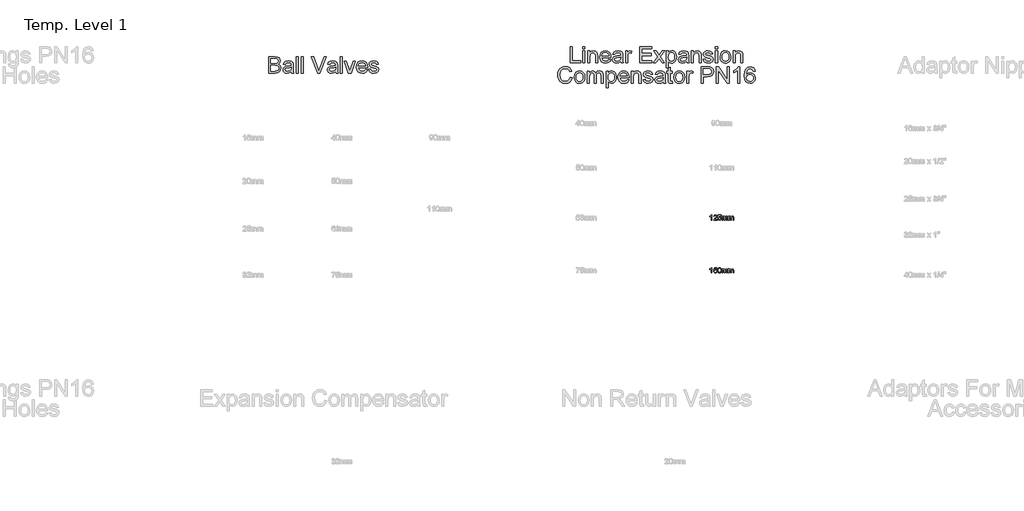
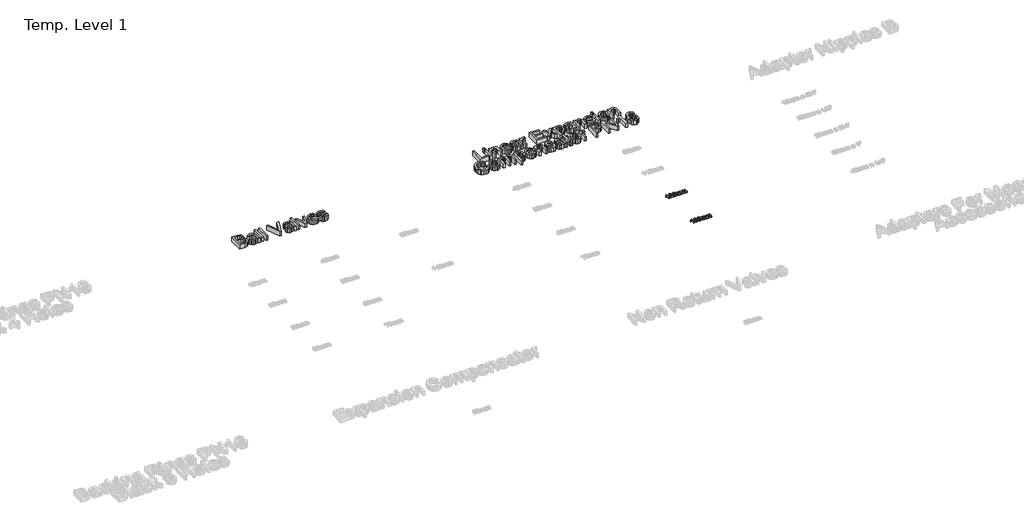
# One storey, part 57 of 62: 4 proxies.
"""IFC4 building model written with IfcOpenShell, lengths in millimetres."""

import ifcopenshell
import ifcopenshell.guid

model = None  # the IFC model being written
_history = None  # IfcOwnerHistory: only IFC2X3 demands one
_inside = {}  # id of a spatial element -> (the spatial element, [elements in it])
_under = {}  # id of a project, library or spatial element -> (it, [spatial elements below it])
_declared = {}  # id of a project -> (the project, [libraries it declares])
_typed = {}  # id of a type object -> (the type object, [elements of that type])
_made_of = {}  # id of a material, layer set ... -> (it, [elements and type objects made of it])


def new_model(schema):
    """Start an empty IFC model of exactly this schema.

    Asked for "IFC4X3", IfcOpenShell would pick the latest addendum, in which some entities
    have other attributes; the version numbers below select the first issue.
    IFC2X3 requires an IfcOwnerHistory on every rooted entity: one is made here for all.
    """
    global model, _history
    if schema == "IFC4X3":
        model = ifcopenshell.file(schema_version=(4, 3, 0, 0))
    else:
        model = ifcopenshell.file(schema=schema)
    _inside.clear()
    _under.clear()
    _declared.clear()
    _typed.clear()
    _made_of.clear()
    _history = None
    if model.schema == "IFC2X3":
        org = make("IfcOrganization", Name="unknown")
        user = make(
            "IfcPersonAndOrganization",
            ThePerson=make("IfcPerson", FamilyName="unknown"),
            TheOrganization=org,
        )
        app = make(
            "IfcApplication",
            ApplicationDeveloper=org,
            Version="unknown",
            ApplicationFullName="unknown",
            ApplicationIdentifier="unknown",
        )
        _history = make(
            "IfcOwnerHistory",
            OwningUser=user,
            OwningApplication=app,
            ChangeAction="ADDED",
            CreationDate=0,
        )
    return model


def make(cls, **values):
    """One entity of the class cls with the attributes given. An attribute that is None is left unset."""
    return model.create_entity(
        cls, **{name: value for name, value in values.items() if value is not None}
    )


def rooted(cls, **values):
    """An entity with a GlobalId (a new one), such as an element, a storey or a relation."""
    return make(cls, GlobalId=ifcopenshell.guid.new(), OwnerHistory=_history, **values)


def si_unit(unit_type, name, prefix=None):
    """IfcSIUnit, for example si_unit("LENGTHUNIT", "METRE", prefix="MILLI")."""
    return make("IfcSIUnit", UnitType=unit_type, Prefix=prefix, Name=name)


def assignment(units):
    """IfcUnitAssignment: the units of a project."""
    return None if units is None else make("IfcUnitAssignment", Units=units)


def point(xyz):
    """IfcCartesianPoint."""
    return None if xyz is None else make("IfcCartesianPoint", Coordinates=xyz)


def direction(xyz):
    """IfcDirection."""
    return None if xyz is None else make("IfcDirection", DirectionRatios=xyz)


def frame(location, z_axis=None, x_axis=None):
    """IfcAxis2Placement3D, a coordinate frame: its origin and axes. An axis left out is left unset."""
    return make(
        "IfcAxis2Placement3D",
        Location=point(location),
        Axis=direction(z_axis),
        RefDirection=direction(x_axis),
    )


def origin():
    """The frame at (0, 0, 0) with its axes left unset."""
    return frame((0.0, 0.0, 0.0))


def origin_with_axes():
    """The frame at (0, 0, 0) with the z axis (0, 0, 1) and the x axis (1, 0, 0) written out."""
    return frame((0.0, 0.0, 0.0), z_axis=(0.0, 0.0, 1.0), x_axis=(1.0, 0.0, 0.0))


def place(relative_to, where):
    """IfcLocalPlacement: puts the frame where relative to a parent placement (None: the world)."""
    return make(
        "IfcLocalPlacement", PlacementRelTo=relative_to, RelativePlacement=where
    )


def context(
    kind, dimensions, precision=None, world=None, true_north=None, identifier=None
):
    """IfcGeometricRepresentationContext, for example the 3D "Model" context."""
    return make(
        "IfcGeometricRepresentationContext",
        ContextIdentifier=identifier,
        ContextType=kind,
        CoordinateSpaceDimension=dimensions,
        Precision=precision,
        WorldCoordinateSystem=world,
        TrueNorth=true_north,
    )


def project(units=None, contexts=None):
    """IfcProject with its units and contexts."""
    return rooted(
        "IfcProject",
        Name="project",
        RepresentationContexts=contexts,
        UnitsInContext=assignment(units),
    )


def spatial(cls, under=None, at=None, **own):
    """A site, building, storey or space (cls), placed at a placement, below another one or the project."""
    s = rooted(cls, ObjectPlacement=at, **own)
    if under is not None:
        _under.setdefault(under.id(), (under, []))[1].append(s)
    return s


def polyline(points):
    """IfcPolyline through the points."""
    return make("IfcPolyline", Points=[point(p) for p in points])


def outline(outer, holes=None, kind="AREA"):
    """IfcArbitraryClosedProfileDef: a profile drawn as a closed curve; with holes, ...WithVoids."""
    if holes is None:
        return make("IfcArbitraryClosedProfileDef", ProfileType=kind, OuterCurve=outer)
    return make(
        "IfcArbitraryProfileDefWithVoids",
        ProfileType=kind,
        OuterCurve=outer,
        InnerCurves=holes,
    )


def extrude(swept, where, along, depth):
    """IfcExtrudedAreaSolid: the profile swept, set in the frame where, extruded along a direction by depth."""
    return make(
        "IfcExtrudedAreaSolid",
        SweptArea=swept,
        Position=where,
        ExtrudedDirection=direction(along),
        Depth=depth,
    )


def shape(context_of_items, identifier, shape_type, items):
    """IfcShapeRepresentation: the items that make up one representation, for example the "Body"."""
    return make(
        "IfcShapeRepresentation",
        ContextOfItems=context_of_items,
        RepresentationIdentifier=identifier,
        RepresentationType=shape_type,
        Items=items,
    )


def made_of(thing, what):
    """Note that an element or type object is made of a material, layer set ...; save() writes the relation."""
    if what is not None:
        _made_of.setdefault(what.id(), (what, []))[1].append(thing)
    return thing


def element(
    cls,
    number,
    at=None,
    inside=None,
    cuts=None,
    type_object=None,
    material=None,
    context=None,
    identifier="Body",
    shape_type=None,
    held_by="IfcProductDefinitionShape",
    body=None,
    shapes=None,
    **own,
):
    """One element of the class cls, such as IfcWall. Its Tag is "e" and its number.

    at: its placement. inside: the storey or other place that contains it. cuts: it is an
    opening in that element (IfcRelVoidsElement). A single representation is given by context,
    identifier, shape_type and body (its items); several are given by shapes. held_by: the class
    of the entity that holds the representations. save() writes the other relations.
    """
    e = rooted(cls, Tag="e%d" % number, ObjectPlacement=at, **own)
    if body is not None:
        shapes = [shape(context, identifier, shape_type, body)]
    if shapes is not None:
        e.Representation = make(held_by, Representations=shapes)
    if inside is not None:
        _inside.setdefault(inside.id(), (inside, []))[1].append(e)
    if cuts is not None:
        rooted(
            "IfcRelVoidsElement", RelatingBuildingElement=cuts, RelatedOpeningElement=e
        )
    if type_object is not None:
        _typed.setdefault(type_object.id(), (type_object, []))[1].append(e)
    return made_of(e, material)


def aggregate(whole, parts):
    """IfcRelAggregates: a whole, such as a stair, and the parts it consists of."""
    return rooted("IfcRelAggregates", RelatingObject=whole, RelatedObjects=parts)


def save(model, path):
    """Write the relations noted so far, then the file.

    IfcRelAggregates (storeys below a building ...), IfcRelContainedInSpatialStructure (elements
    in a storey), IfcRelDefinesByType, IfcRelAssociatesMaterial and IfcRelDeclares: one each for
    every whole, place, type object, material and project.
    """
    for whole, parts in _under.values():
        aggregate(whole, parts)
    for where, things in _inside.values():
        rooted(
            "IfcRelContainedInSpatialStructure",
            RelatedElements=things,
            RelatingStructure=where,
        )
    for kind, things in _typed.values():
        rooted("IfcRelDefinesByType", RelatedObjects=things, RelatingType=kind)
    for what, things in _made_of.values():
        rooted("IfcRelAssociatesMaterial", RelatedObjects=things, RelatingMaterial=what)
    for by, libraries in _declared.values():
        rooted("IfcRelDeclares", RelatingContext=by, RelatedDefinitions=libraries)
    model.write(path)


model = new_model("IFC4")

# Units and contexts
model_context = context("Model", 3, world=origin())
ifc_project = project(units=[si_unit("LENGTHUNIT", "METRE", prefix="MILLI")], contexts=[model_context])

# Site, building, storey
site = spatial("IfcSite", under=ifc_project)
building = spatial("IfcBuilding", under=site)
storey = spatial("IfcBuildingStorey", under=building, Name="Temp. Level 1", Elevation=0.0)

# Proxies
placement = place(None, origin())
element("IfcBuildingElementProxy", 1, Name="150mm Arial", ObjectType="150mm Arial", at=placement, inside=storey, context=model_context, shape_type="SweptSolid", body=[
    extrude(outline(polyline([(11927.6560981, 1929.801483), (11927.6560981, 2077.4937907), (11984.0142712, 2077.4937907), (12011.6164346, 2073.1488388), (12020.892276, 2067.636519), (12027.9145115, 2059.7894638), (12033.8099442, 2040.895233), (12028.8520115, 2023.6416272), (12013.8700404, 2010.5707138), (12024.3312784, 2005.1079734), (12032.0611462, 1996.7966753), (12036.8342832, 1986.1866993), (12038.4253288, 1973.8279253), (12034.0803769, 1953.9781657), (12023.3171558, 1939.8435503), (12007.2534538, 1932.3435503), (11983.5815788, 1929.801483), (11927.6560981, 1929.801483)]), holes=[polyline([(11946.1176365, 1948.2630214), (11983.9782135, 1948.2630214), (11997.6801365, 1948.9841753), (12009.2726846, 1953.004608), (12016.9529731, 1961.207733), (12019.9637904, 1973.6476368), (12016.4301365, 1987.9985984), (12004.9818192, 1996.5623003), (11982.1753288, 1999.0322522), (11946.1176365, 1999.0322522), (11946.1176365, 1948.2630214)]), polyline([(11946.1176365, 2017.4937907), (11979.8315788, 2017.4937907), (11999.5190788, 2019.0803291), (12011.3640308, 2025.9132618), (12015.3484058, 2037.9385022), (12011.6344635, 2049.9817714), (12000.9974442, 2057.1031657), (11977.2714827, 2059.0322522), (11946.1176365, 2059.0322522), (11946.1176365, 2017.4937907)])]), origin_with_axes(), (0.0, 0.0, 1.0), 50.0),
    extrude(outline(polyline([(12130.7330212, 1943.6476368), (12112.8303769, 1931.1356176), (12093.0527327, 1927.4937907), (12077.6245476, 1929.6842955), (12066.2438385, 1936.2558099), (12059.2261101, 1946.2347763), (12056.8868673, 1958.6476368), (12060.4205212, 1973.2510022), (12069.7053769, 1983.8519638), (12082.6320596, 1989.9096561), (12098.6056173, 1992.6860984), (12130.6248481, 1999.0322522), (12130.7330212, 2003.1428291), (12129.4619875, 2011.3820118), (12125.6488865, 2016.7726368), (12117.1212423, 2020.7750407), (12105.2402327, 2022.1091753), (12086.5623481, 2018.5574926), (12077.6560981, 2005.9553291), (12059.1945596, 2008.2630214), (12067.1813385, 2026.2918676), (12083.2630692, 2036.8567714), (12107.6200404, 2040.5707138), (12129.9938385, 2037.2894638), (12142.6320596, 2029.0502811), (12148.2931173, 2016.520233), (12149.1945596, 2000.3663868), (12149.1945596, 1977.3976368), (12150.1320596, 1945.3243195), (12153.8099442, 1929.801483), (12135.3484058, 1929.801483), (12130.7330212, 1943.6476368)]), holes=[polyline([(12130.7330212, 1980.5707138), (12100.9493673, 1974.9096561), (12085.0659538, 1971.9168676), (12077.8724442, 1967.0490791), (12075.3484058, 1959.9457138), (12080.8472038, 1949.957733), (12096.9830212, 1945.9553291), (12115.6609058, 1950.3723964), (12127.704175, 1961.0635022), (12130.6248481, 1975.3423484), (12130.7330212, 1980.5707138)])]), origin_with_axes(), (0.0, 0.0, 1.0), 50.0),
    extrude(outline(polyline([(12174.579175, 1929.801483), (12174.579175, 2077.4937907), (12193.0407135, 2077.4937907), (12193.0407135, 1929.801483), (12174.579175, 1929.801483)])), origin_with_axes(), (0.0, 0.0, 1.0), 50.0),
    extrude(outline(polyline([(12220.7330212, 1929.801483), (12220.7330212, 2077.4937907), (12239.1945596, 2077.4937907), (12239.1945596, 1929.801483), (12220.7330212, 1929.801483)])), origin_with_axes(), (0.0, 0.0, 1.0), 50.0),
    extrude(outline(polyline([(12370.516675, 1929.801483), (12311.7426365, 2077.4937907), (12331.5022519, 2077.4937907), (12370.8411942, 1971.0875407), (12378.8099442, 1947.1091753), (12386.6705212, 1971.0875407), (12426.1176365, 2077.4937907), (12445.8772519, 2077.4937907), (12389.5911942, 1929.801483), (12370.516675, 1929.801483)])), origin_with_axes(), (0.0, 0.0, 1.0), 50.0),
    extrude(outline(polyline([(12529.9637904, 1943.6476368), (12512.0611462, 1931.1356176), (12492.2835019, 1927.4937907), (12476.8553168, 1929.6842955), (12465.4746077, 1936.2558099), (12458.4568793, 1946.2347763), (12456.1176365, 1958.6476368), (12459.6512904, 1973.2510022), (12468.9361462, 1983.8519638), (12481.8628288, 1989.9096561), (12497.8363865, 1992.6860984), (12529.8556173, 1999.0322522), (12529.9637904, 2003.1428291), (12528.6927567, 2011.3820118), (12524.8796558, 2016.7726368), (12516.3520115, 2020.7750407), (12504.4710019, 2022.1091753), (12485.7931173, 2018.5574926), (12476.8868673, 2005.9553291), (12458.4253288, 2008.2630214), (12466.4121077, 2026.2918676), (12482.4938385, 2036.8567714), (12506.8508096, 2040.5707138), (12529.2246077, 2037.2894638), (12541.8628288, 2029.0502811), (12547.5238865, 2016.520233), (12548.4253288, 2000.3663868), (12548.4253288, 1977.3976368), (12549.3628288, 1945.3243195), (12553.0407135, 1929.801483), (12534.579175, 1929.801483), (12529.9637904, 1943.6476368)]), holes=[polyline([(12529.9637904, 1980.5707138), (12500.1801365, 1974.9096561), (12484.2967231, 1971.9168676), (12477.1032135, 1967.0490791), (12474.579175, 1959.9457138), (12480.0779731, 1949.957733), (12496.2137904, 1945.9553291), (12514.891675, 1950.3723964), (12526.9349442, 1961.0635022), (12529.8556173, 1975.3423484), (12529.9637904, 1980.5707138)])]), origin_with_axes(), (0.0, 0.0, 1.0), 50.0),
    extrude(outline(polyline([(12573.8099442, 1929.801483), (12573.8099442, 2077.4937907), (12592.2714827, 2077.4937907), (12592.2714827, 1929.801483), (12573.8099442, 1929.801483)])), origin_with_axes(), (0.0, 0.0, 1.0), 50.0),
    extrude(outline(polyline([(12646.5743673, 1929.801483), (12608.4253288, 2038.2630214), (12627.9685981, 2038.2630214), (12651.0815788, 1973.2870599), (12658.0407135, 1951.4360984), (12664.8556173, 1972.0610984), (12688.1128288, 2038.2630214), (12707.6560981, 2038.2630214), (12669.9758096, 1929.801483), (12646.5743673, 1929.801483)])), origin_with_axes(), (0.0, 0.0, 1.0), 50.0),
    extrude(outline(polyline([(12799.7474442, 1962.1091753), (12817.8484058, 1959.801483), (12811.3264707, 1946.1626609), (12800.9193192, 1935.9673484), (12786.8613264, 1929.6121801), (12769.3868673, 1927.4937907), (12747.7252087, 1931.1491392), (12731.0575404, 1942.1151849), (12720.4295356, 1959.6797883), (12716.8868673, 1983.1308099), (12720.4655933, 2007.3705936), (12731.2017712, 2025.4985984), (12747.6440788, 2036.8026849), (12768.3411942, 2040.5707138), (12788.3937784, 2036.8116993), (12804.4169154, 2025.5346561), (12814.9232255, 2007.4427089), (12818.4253288, 1983.238983), (12818.3171558, 1978.2630214), (12735.3484058, 1978.2630214), (12738.5440188, 1964.4439109), (12745.9673962, 1954.2846561), (12756.681038, 1948.0376609), (12769.7474442, 1945.9553291), (12787.8484058, 1949.8135022), (12799.7474442, 1962.1091753)]), holes=[polyline([(12735.3484058, 1996.7245599), (12799.9637904, 1996.7245599), (12797.4667952, 2006.4781657), (12792.5719635, 2013.4553291), (12781.8087423, 2019.9457138), (12768.2690788, 2022.1091753), (12755.8246678, 2020.3829133), (12745.5347038, 2015.2041272), (12738.3817591, 2007.1317113), (12735.3484058, 1996.7245599)])]), origin_with_axes(), (0.0, 0.0, 1.0), 50.0),
    extrude(outline(polyline([(12829.9637904, 1962.1091753), (12848.4253288, 1964.4168676), (12851.3369875, 1956.520233), (12856.9710019, 1950.7149445), (12876.5503288, 1945.9553291), (12895.3724442, 1950.3183099), (12901.5022519, 1960.5586945), (12895.3363865, 1968.8519638), (12876.3339827, 1974.1163868), (12848.5335019, 1983.1488388), (12836.4000885, 1993.6957138), (12832.2714827, 2008.5875407), (12835.5887904, 2022.3435503), (12844.6392712, 2032.8543676), (12856.37605, 2038.317108), (12872.2594635, 2040.5707138), (12894.7234058, 2036.9469157), (12909.0022519, 2027.1392234), (12915.3484058, 2010.5707138), (12896.8868673, 2008.2630214), (12889.9457615, 2018.4493195), (12873.7017712, 2022.1091753), (12856.0335019, 2018.6115791), (12850.7330212, 2010.4625407), (12852.9325404, 2005.0899445), (12859.8195596, 2001.0154253), (12875.7210019, 1997.0851368), (12902.8183577, 1988.395233), (12915.4024923, 1978.551483), (12919.9637904, 1962.5058099), (12914.6092231, 1944.8375407), (12899.1585019, 1932.0190311), (12876.297925, 1927.4937907), (12857.6831413, 1929.6752811), (12844.0984058, 1936.2197522), (12835.0298962, 1947.0550888), (12829.9637904, 1962.1091753)])), origin_with_axes(), (0.0, 0.0, 1.0), 50.0),
])
element("IfcBuildingElementProxy", 2, Name="150mm Arial", ObjectType="150mm Arial", at=placement, inside=storey, context=model_context, shape_type="SweptSolid", body=[
    extrude(outline(polyline([(14644.9637904, 2020.9553291), (14644.9637904, 2168.6476368), (14663.4253288, 2168.6476368), (14663.4253288, 2039.4168676), (14737.2714827, 2039.4168676), (14737.2714827, 2020.9553291), (14644.9637904, 2020.9553291)])), origin_with_axes(), (0.0, 0.0, 1.0), 50.0),
    extrude(outline(polyline([(14755.7330212, 2020.9553291), (14755.7330212, 2129.4168676), (14774.1945596, 2129.4168676), (14774.1945596, 2020.9553291), (14755.7330212, 2020.9553291)])), origin_with_axes(), (0.0, 0.0, 1.0), 50.0),
    extrude(outline(polyline([(14755.7330212, 2150.1860984), (14755.7330212, 2168.6476368), (14774.1945596, 2168.6476368), (14774.1945596, 2150.1860984), (14755.7330212, 2150.1860984)])), origin_with_axes(), (0.0, 0.0, 1.0), 50.0),
    extrude(outline(polyline([(14801.8868673, 2020.9553291), (14801.8868673, 2129.4168676), (14820.3484058, 2129.4168676), (14820.3484058, 2114.2726368), (14834.4649923, 2127.3615791), (14853.7378288, 2131.7245599), (14871.1717231, 2128.2089349), (14883.0707615, 2118.9781657), (14888.6056173, 2105.4024445), (14889.579175, 2087.5538868), (14889.579175, 2020.9553291), (14871.1176365, 2020.9553291), (14871.1176365, 2085.0659061), (14868.9902327, 2101.4000407), (14861.4722038, 2110.035858), (14848.797925, 2113.2630214), (14837.9851245, 2111.4511224), (14828.7678769, 2106.0154253), (14822.4532736, 2095.5136224), (14820.3484058, 2078.5034061), (14820.3484058, 2020.9553291), (14801.8868673, 2020.9553291)])), origin_with_axes(), (0.0, 0.0, 1.0), 50.0),
    extrude(outline(polyline([(14990.9012904, 2053.2630214), (15009.0022519, 2050.9553291), (15002.4803168, 2037.316507), (14992.0731654, 2027.1211945), (14978.0151726, 2020.7660263), (14960.5407135, 2018.6476368), (14938.8790548, 2022.3029854), (14922.2113865, 2033.2690311), (14911.5833817, 2050.8336344), (14908.0407135, 2074.2846561), (14911.6194394, 2098.5244397), (14922.3556173, 2116.6524445), (14938.797925, 2127.9565311), (14959.4950404, 2131.7245599), (14979.5476245, 2127.9655455), (14995.5707615, 2116.6885022), (15006.0770716, 2098.5965551), (15009.579175, 2074.3928291), (15009.4710019, 2069.4168676), (14926.5022519, 2069.4168676), (14929.6978649, 2055.597757), (14937.1212423, 2045.4385022), (14947.8348841, 2039.191507), (14960.9012904, 2037.1091753), (14979.0022519, 2040.9673484), (14990.9012904, 2053.2630214)]), holes=[polyline([(14926.5022519, 2087.8784061), (14991.1176365, 2087.8784061), (14988.6206413, 2097.6320118), (14983.7258096, 2104.6091753), (14972.9625885, 2111.0995599), (14959.422925, 2113.2630214), (14946.9785139, 2111.5367594), (14936.68855, 2106.3579734), (14929.5356053, 2098.2855575), (14926.5022519, 2087.8784061)])]), origin_with_axes(), (0.0, 0.0, 1.0), 50.0),
    extrude(outline(polyline([(15097.2714827, 2034.801483), (15079.3688385, 2022.2894638), (15059.5911942, 2018.6476368), (15044.1630091, 2020.8381416), (15032.7823, 2027.4096561), (15025.7645716, 2037.3886224), (15023.4253288, 2049.801483), (15026.9589827, 2064.4048484), (15036.2438385, 2075.0058099), (15049.1705212, 2081.0635022), (15065.1440788, 2083.8399445), (15097.1633096, 2090.1860984), (15097.2714827, 2094.2966753), (15096.000449, 2102.535858), (15092.1873481, 2107.926483), (15083.6597038, 2111.9288868), (15071.7786942, 2113.2630214), (15053.1008096, 2109.7113388), (15044.1945596, 2097.1091753), (15025.7330212, 2099.4168676), (15033.7198, 2117.4457138), (15049.8015308, 2128.0106176), (15074.1585019, 2131.7245599), (15096.5323, 2128.4433099), (15109.1705212, 2120.2041272), (15114.8315788, 2107.6740791), (15115.7330212, 2091.520233), (15115.7330212, 2068.551483), (15116.6705212, 2036.4781657), (15120.3484058, 2020.9553291), (15101.8868673, 2020.9553291), (15097.2714827, 2034.801483)]), holes=[polyline([(15097.2714827, 2071.7245599), (15067.4878288, 2066.0635022), (15051.6044154, 2063.0707138), (15044.4109058, 2058.2029253), (15041.8868673, 2051.0995599), (15047.3856654, 2041.1115791), (15063.5214827, 2037.1091753), (15082.1993673, 2041.5262426), (15094.2426365, 2052.2173484), (15097.1633096, 2066.4961945), (15097.2714827, 2071.7245599)])]), origin_with_axes(), (0.0, 0.0, 1.0), 50.0),
    extrude(outline(polyline([(15141.1176365, 2020.9553291), (15141.1176365, 2129.4168676), (15157.2714827, 2129.4168676), (15157.2714827, 2113.3711945), (15168.7378288, 2128.1548484), (15180.2762904, 2131.7245599), (15198.8099442, 2126.0274445), (15192.6440788, 2109.4769638), (15179.6633096, 2113.2630214), (15169.2246077, 2109.6211945), (15162.5719635, 2099.5250407), (15159.579175, 2077.9625407), (15159.579175, 2020.9553291), (15141.1176365, 2020.9553291)])), origin_with_axes(), (0.0, 0.0, 1.0), 50.0),
    extrude(outline(polyline([(15270.3484058, 2020.9553291), (15270.3484058, 2168.6476368), (15376.5022519, 2168.6476368), (15376.5022519, 2150.1860984), (15288.8099442, 2150.1860984), (15288.8099442, 2106.3399445), (15371.8868673, 2106.3399445), (15371.8868673, 2087.8784061), (15288.8099442, 2087.8784061), (15288.8099442, 2039.4168676), (15378.8099442, 2039.4168676), (15378.8099442, 2020.9553291), (15270.3484058, 2020.9553291)])), origin_with_axes(), (0.0, 0.0, 1.0), 50.0),
    extrude(outline(polyline([(15392.6560981, 2020.9553291), (15432.1032135, 2075.4745599), (15394.9637904, 2129.4168676), (15417.1753288, 2129.4168676), (15435.0960019, 2103.4553291), (15443.4613865, 2091.1957138), (15450.7089827, 2101.2197522), (15471.1176365, 2129.4168676), (15493.329175, 2129.4168676), (15454.3147519, 2075.4745599), (15491.8868673, 2020.9553291), (15469.6753288, 2020.9553291), (15447.0671558, 2053.7317714), (15442.9205212, 2059.7173484), (15414.8676365, 2020.9553291), (15392.6560981, 2020.9553291)])), origin_with_axes(), (0.0, 0.0, 1.0), 50.0),
    extrude(outline(polyline([(15508.0407135, 1979.4168676), (15508.0407135, 2129.4168676), (15526.5022519, 2129.4168676), (15526.5022519, 2111.3159061), (15539.266675, 2126.6223964), (15556.5022519, 2131.7245599), (15568.9872279, 2129.9397041), (15579.9036942, 2124.5851368), (15588.7919154, 2115.9853772), (15595.1921558, 2104.4649445), (15600.3484058, 2076.0154253), (15598.8925764, 2060.2266633), (15594.5250885, 2046.1055695), (15587.3856654, 2034.3687907), (15577.6140308, 2025.7329734), (15566.2333216, 2020.418971), (15554.266675, 2018.6476368), (15538.2029731, 2023.3892234), (15526.5022519, 2035.3784061), (15526.5022519, 1979.4168676), (15508.0407135, 1979.4168676)]), holes=[polyline([(15526.5022519, 2074.3207138), (15528.4989466, 2057.770233), (15534.4890308, 2046.1957138), (15543.3276726, 2039.3808099), (15553.8700404, 2037.1091753), (15564.5836822, 2039.4619397), (15573.6476846, 2046.520233), (15579.8270716, 2058.5184301), (15581.8868673, 2075.6909061), (15579.876651, 2092.1512426), (15573.8460019, 2103.8880214), (15565.0208817, 2110.9192714), (15554.6272519, 2113.2630214), (15544.1930572, 2110.7705335), (15535.0298962, 2103.2930695), (15528.634163, 2091.0650046), (15526.5022519, 2074.3207138)])]), origin_with_axes(), (0.0, 0.0, 1.0), 50.0),
    extrude(outline(polyline([(15690.3484058, 2034.801483), (15672.4457615, 2022.2894638), (15652.6681173, 2018.6476368), (15637.2399322, 2020.8381416), (15625.8592231, 2027.4096561), (15618.8414947, 2037.3886224), (15616.5022519, 2049.801483), (15620.0359058, 2064.4048484), (15629.3207615, 2075.0058099), (15642.2474442, 2081.0635022), (15658.2210019, 2083.8399445), (15690.2402327, 2090.1860984), (15690.3484058, 2094.2966753), (15689.0773721, 2102.535858), (15685.2642712, 2107.926483), (15676.7366269, 2111.9288868), (15664.8556173, 2113.2630214), (15646.1777327, 2109.7113388), (15637.2714827, 2097.1091753), (15618.8099442, 2099.4168676), (15626.7967231, 2117.4457138), (15642.8784538, 2128.0106176), (15667.235425, 2131.7245599), (15689.6092231, 2128.4433099), (15702.2474442, 2120.2041272), (15707.9085019, 2107.6740791), (15708.8099442, 2091.520233), (15708.8099442, 2068.551483), (15709.7474442, 2036.4781657), (15713.4253288, 2020.9553291), (15694.9637904, 2020.9553291), (15690.3484058, 2034.801483)]), holes=[polyline([(15690.3484058, 2071.7245599), (15660.5647519, 2066.0635022), (15644.6813385, 2063.0707138), (15637.4878288, 2058.2029253), (15634.9637904, 2051.0995599), (15640.4625885, 2041.1115791), (15656.5984058, 2037.1091753), (15675.2762904, 2041.5262426), (15687.3195596, 2052.2173484), (15690.2402327, 2066.4961945), (15690.3484058, 2071.7245599)])]), origin_with_axes(), (0.0, 0.0, 1.0), 50.0),
    extrude(outline(polyline([(15734.1945596, 2020.9553291), (15734.1945596, 2129.4168676), (15752.6560981, 2129.4168676), (15752.6560981, 2114.2726368), (15766.7726846, 2127.3615791), (15786.0455212, 2131.7245599), (15803.4794154, 2128.2089349), (15815.3784538, 2118.9781657), (15820.9133096, 2105.4024445), (15821.8868673, 2087.5538868), (15821.8868673, 2020.9553291), (15803.4253288, 2020.9553291), (15803.4253288, 2085.0659061), (15801.297925, 2101.4000407), (15793.7798962, 2110.035858), (15781.1056173, 2113.2630214), (15770.2928168, 2111.4511224), (15761.0755692, 2106.0154253), (15754.7609659, 2095.5136224), (15752.6560981, 2078.5034061), (15752.6560981, 2020.9553291), (15734.1945596, 2020.9553291)])), origin_with_axes(), (0.0, 0.0, 1.0), 50.0),
    extrude(outline(polyline([(15840.3484058, 2053.2630214), (15858.8099442, 2055.5707138), (15861.7216029, 2047.6740791), (15867.3556173, 2041.8687907), (15886.9349442, 2037.1091753), (15905.7570596, 2041.4721561), (15911.8868673, 2051.7125407), (15905.7210019, 2060.0058099), (15886.7185981, 2065.270233), (15858.9181173, 2074.3026849), (15846.7847038, 2084.8495599), (15842.6560981, 2099.7413868), (15845.9734058, 2113.4973964), (15855.0238865, 2124.0082138), (15866.7606654, 2129.4709541), (15882.6440788, 2131.7245599), (15905.1080212, 2128.1007618), (15919.3868673, 2118.2930695), (15925.7330212, 2101.7245599), (15907.2714827, 2099.4168676), (15900.3303769, 2109.6031657), (15884.0863865, 2113.2630214), (15866.4181173, 2109.7654253), (15861.1176365, 2101.6163868), (15863.3171558, 2096.2437907), (15870.204175, 2092.1692714), (15886.1056173, 2088.238983), (15913.2029731, 2079.5490791), (15925.7871077, 2069.7053291), (15930.3484058, 2053.6596561), (15924.9938385, 2035.9913868), (15909.5431173, 2023.1728772), (15886.6825404, 2018.6476368), (15868.0677567, 2020.8291272), (15854.4830212, 2027.3735984), (15845.4145115, 2038.2089349), (15840.3484058, 2053.2630214)])), origin_with_axes(), (0.0, 0.0, 1.0), 50.0),
    extrude(outline(polyline([(15951.1176365, 2020.9553291), (15951.1176365, 2129.4168676), (15969.579175, 2129.4168676), (15969.579175, 2020.9553291), (15951.1176365, 2020.9553291)])), origin_with_axes(), (0.0, 0.0, 1.0), 50.0),
    extrude(outline(polyline([(15951.1176365, 2150.1860984), (15951.1176365, 2168.6476368), (15969.579175, 2168.6476368), (15969.579175, 2150.1860984), (15951.1176365, 2150.1860984)])), origin_with_axes(), (0.0, 0.0, 1.0), 50.0),
    extrude(outline(polyline([(15992.6560981, 2075.1860984), (15996.6494875, 2101.3369397), (16008.6296558, 2119.7173484), (16023.4313385, 2128.722757), (16041.1536942, 2131.7245599), (16060.5482255, 2128.0692113), (16076.0395115, 2117.1031657), (16086.1942591, 2099.6918075), (16089.579175, 2076.7005214), (16088.0827808, 2058.0496801), (16083.5935981, 2043.8519638), (16076.2423361, 2033.2194517), (16066.1597038, 2025.2642234), (16054.1840428, 2020.3017835), (16041.1536942, 2018.6476368), (16021.524788, 2022.2894638), (16006.0515308, 2033.2149445), (15996.0049563, 2050.9913868), (15992.6560981, 2075.1860984)]), holes=[polyline([(16011.1176365, 2075.2221561), (16013.2540548, 2058.5139229), (16019.6633096, 2046.6103772), (16029.3087423, 2039.4844758), (16041.1536942, 2037.1091753), (16052.9445596, 2039.4979974), (16062.5719635, 2046.6644638), (16068.9812183, 2058.7257618), (16071.1176365, 2075.7990791), (16068.9676966, 2092.0205335), (16062.5178769, 2103.7618195), (16052.8769514, 2110.887721), (16041.1536942, 2113.2630214), (16029.3087423, 2110.8967354), (16019.6633096, 2103.7978772), (16013.2540548, 2091.9213748), (16011.1176365, 2075.2221561)])]), origin_with_axes(), (0.0, 0.0, 1.0), 50.0),
    extrude(outline(polyline([(16110.3484058, 2020.9553291), (16110.3484058, 2129.4168676), (16128.8099442, 2129.4168676), (16128.8099442, 2114.2726368), (16142.9265308, 2127.3615791), (16162.1993673, 2131.7245599), (16179.6332615, 2128.2089349), (16191.5323, 2118.9781657), (16197.0671558, 2105.4024445), (16198.0407135, 2087.5538868), (16198.0407135, 2020.9553291), (16179.579175, 2020.9553291), (16179.579175, 2085.0659061), (16177.4517712, 2101.4000407), (16169.9337423, 2110.035858), (16157.2594635, 2113.2630214), (16146.446663, 2111.4511224), (16137.2294154, 2106.0154253), (16130.914812, 2095.5136224), (16128.8099442, 2078.5034061), (16128.8099442, 2020.9553291), (16110.3484058, 2020.9553291)])), origin_with_axes(), (0.0, 0.0, 1.0), 50.0),
    extrude(outline(polyline([(14641.5022519, 1891.1476368), (14659.9637904, 1886.3880214), (14651.4451606, 1864.8751008), (14638.0767712, 1849.1584541), (14620.516675, 1839.5445719), (14599.422925, 1836.3399445), (14578.009163, 1838.7648243), (14561.0034538, 1846.0394638), (14547.9685981, 1857.9114589), (14538.4673962, 1874.1284061), (14532.6666149, 1893.1939109), (14530.7330212, 1913.6115791), (14532.9190188, 1935.1470359), (14539.4770115, 1953.7437907), (14550.0644514, 1968.8113988), (14564.3387904, 1979.7594157), (14581.2678769, 1986.4255815), (14599.8195596, 1988.6476368), (14620.0614466, 1985.7720359), (14636.7967231, 1977.145233), (14649.5025524, 1963.2990791), (14657.6560981, 1944.7654253), (14639.1945596, 1940.3663868), (14632.7943192, 1953.8294277), (14624.0503288, 1963.0647041), (14612.8544154, 1968.4057498), (14599.0984058, 1970.1860984), (14583.2420356, 1968.2119397), (14570.2161942, 1962.2894638), (14560.3318793, 1953.0406657), (14553.9000885, 1941.0875407), (14549.1945596, 1913.6476368), (14554.7654731, 1881.8447522), (14561.8868673, 1869.9682498), (14572.1092231, 1861.5262426), (14584.3643313, 1856.4826729), (14597.5839827, 1854.801483), (14612.9941389, 1857.0911464), (14625.8351846, 1863.9601368), (14635.5301966, 1875.3363388), (14641.5022519, 1891.1476368)])), origin_with_axes(), (0.0, 0.0, 1.0), 50.0),
    extrude(outline(polyline([(14678.4253288, 1892.8784061), (14682.4187183, 1919.0292474), (14694.3988865, 1937.4096561), (14709.2005692, 1946.4150647), (14726.922925, 1949.4168676), (14746.3174563, 1945.761519), (14761.8087423, 1934.7954734), (14771.9634899, 1917.3841152), (14775.3484058, 1894.3928291), (14773.8520115, 1875.7419878), (14769.3628288, 1861.5442714), (14762.0115668, 1850.9117594), (14751.9289346, 1842.9565311), (14739.9532736, 1837.9940912), (14726.922925, 1836.3399445), (14707.2940188, 1839.9817714), (14691.8207615, 1850.9072522), (14681.774187, 1868.6836945), (14678.4253288, 1892.8784061)]), holes=[polyline([(14696.8868673, 1892.9144638), (14699.0232856, 1876.2062306), (14705.4325404, 1864.3026849), (14715.0779731, 1857.1767835), (14726.922925, 1854.801483), (14738.7137904, 1857.1903051), (14748.3411942, 1864.3567714), (14754.750449, 1876.4180695), (14756.8868673, 1893.4913868), (14754.7369274, 1909.7128412), (14748.2871077, 1921.4541272), (14738.6461822, 1928.5800287), (14726.922925, 1930.9553291), (14715.0779731, 1928.5890431), (14705.4325404, 1921.4901849), (14699.0232856, 1909.6136825), (14696.8868673, 1892.9144638)])]), origin_with_axes(), (0.0, 0.0, 1.0), 50.0),
    extrude(outline(polyline([(14796.1176365, 1838.6476368), (14796.1176365, 1947.1091753), (14814.579175, 1947.1091753), (14814.579175, 1929.2606176), (14827.2714827, 1943.8820118), (14845.3363865, 1949.4168676), (14855.6038144, 1948.0061104), (14863.8339827, 1943.7738388), (14874.0022519, 1927.9625407), (14888.4073, 1944.0532859), (14906.5984058, 1949.4168676), (14920.4761101, 1947.1857979), (14930.7390308, 1940.4925888), (14937.0806774, 1929.1569517), (14939.1945596, 1912.9985984), (14939.1945596, 1838.6476368), (14920.7330212, 1838.6476368), (14920.7330212, 1905.0659061), (14919.0202808, 1920.4805695), (14912.8183577, 1928.0707138), (14902.2714827, 1930.9553291), (14892.2699803, 1929.1073724), (14884.1164346, 1923.5635022), (14878.6942591, 1913.9451128), (14876.8868673, 1899.8735984), (14876.8868673, 1838.6476368), (14858.4253288, 1838.6476368), (14858.4253288, 1907.1211945), (14854.1524923, 1925.0058099), (14848.5139707, 1929.4679493), (14840.1440788, 1930.9553291), (14826.4782135, 1926.988983), (14817.391675, 1915.3784061), (14814.579175, 1893.3471561), (14814.579175, 1838.6476368), (14796.1176365, 1838.6476368)])), origin_with_axes(), (0.0, 0.0, 1.0), 50.0),
    extrude(outline(polyline([(14966.8868673, 1797.1091753), (14966.8868673, 1947.1091753), (14985.3484058, 1947.1091753), (14985.3484058, 1929.0082138), (14998.1128288, 1944.3147041), (15015.3484058, 1949.4168676), (15027.8333817, 1947.6320118), (15038.7498481, 1942.2774445), (15047.6380692, 1933.6776849), (15054.0383096, 1922.1572522), (15059.1945596, 1893.707733), (15057.7387303, 1877.918971), (15053.3712423, 1863.7978772), (15046.2318192, 1852.0610984), (15036.4601846, 1843.4252811), (15025.0794755, 1838.1112787), (15013.1128288, 1836.3399445), (14997.0491269, 1841.0815311), (14985.3484058, 1853.0707138), (14985.3484058, 1797.1091753), (14966.8868673, 1797.1091753)]), holes=[polyline([(14985.3484058, 1892.0130214), (14987.3451005, 1875.4625407), (14993.3351846, 1863.8880214), (15002.1738264, 1857.0731176), (15012.7161942, 1854.801483), (15023.4298361, 1857.1542474), (15032.4938385, 1864.2125407), (15038.6732255, 1876.2107378), (15040.7330212, 1893.3832138), (15038.7228048, 1909.8435503), (15032.6921558, 1921.5803291), (15023.8670356, 1928.6115791), (15013.4734058, 1930.9553291), (15003.0392111, 1928.4628412), (14993.87605, 1920.9853772), (14987.4803168, 1908.7573123), (14985.3484058, 1892.0130214)])]), origin_with_axes(), (0.0, 0.0, 1.0), 50.0),
    extrude(outline(polyline([(15155.9012904, 1870.9553291), (15174.0022519, 1868.6476368), (15167.4803168, 1855.0088147), (15157.0731654, 1844.8135022), (15143.0151726, 1838.4583339), (15125.5407135, 1836.3399445), (15103.8790548, 1839.9952931), (15087.2113865, 1850.9613388), (15076.5833817, 1868.5259421), (15073.0407135, 1891.9769638), (15076.6194394, 1916.2167474), (15087.3556173, 1934.3447522), (15103.797925, 1945.6488388), (15124.4950404, 1949.4168676), (15144.5476245, 1945.6578532), (15160.5707615, 1934.3808099), (15171.0770716, 1916.2888628), (15174.579175, 1892.0851368), (15174.4710019, 1887.1091753), (15091.5022519, 1887.1091753), (15094.6978649, 1873.2900647), (15102.1212423, 1863.1308099), (15112.8348841, 1856.8838147), (15125.9012904, 1854.801483), (15144.0022519, 1858.6596561), (15155.9012904, 1870.9553291)]), holes=[polyline([(15091.5022519, 1905.5707138), (15156.1176365, 1905.5707138), (15153.6206413, 1915.3243195), (15148.7258096, 1922.301483), (15137.9625885, 1928.7918676), (15124.422925, 1930.9553291), (15111.9785139, 1929.2290671), (15101.68855, 1924.0502811), (15094.5356053, 1915.9778652), (15091.5022519, 1905.5707138)])]), origin_with_axes(), (0.0, 0.0, 1.0), 50.0),
    extrude(outline(polyline([(15193.0407135, 1838.6476368), (15193.0407135, 1947.1091753), (15211.5022519, 1947.1091753), (15211.5022519, 1931.9649445), (15225.6188385, 1945.0538868), (15244.891675, 1949.4168676), (15262.3255692, 1945.9012426), (15274.2246077, 1936.6704734), (15279.7594635, 1923.0947522), (15280.7330212, 1905.2461945), (15280.7330212, 1838.6476368), (15262.2714827, 1838.6476368), (15262.2714827, 1902.7582138), (15260.1440788, 1919.0923484), (15252.62605, 1927.7281657), (15239.9517712, 1930.9553291), (15229.1389707, 1929.1434301), (15219.9217231, 1923.707733), (15213.6071197, 1913.2059301), (15211.5022519, 1896.1957138), (15211.5022519, 1838.6476368), (15193.0407135, 1838.6476368)])), origin_with_axes(), (0.0, 0.0, 1.0), 50.0),
    extrude(outline(polyline([(15299.1945596, 1870.9553291), (15317.6560981, 1873.2630214), (15320.5677567, 1865.3663868), (15326.2017712, 1859.5610984), (15345.7810981, 1854.801483), (15364.6032135, 1859.1644638), (15370.7330212, 1869.4048484), (15364.5671558, 1877.6981176), (15345.5647519, 1882.9625407), (15317.7642712, 1891.9949926), (15305.6308577, 1902.5418676), (15301.5022519, 1917.4336945), (15304.8195596, 1931.1897041), (15313.8700404, 1941.7005214), (15325.6068192, 1947.1632618), (15341.4902327, 1949.4168676), (15363.954175, 1945.7930695), (15378.2330212, 1935.9853772), (15384.579175, 1919.4168676), (15366.1176365, 1917.1091753), (15359.1765308, 1927.2954734), (15342.9325404, 1930.9553291), (15325.2642712, 1927.457733), (15319.9637904, 1919.3086945), (15322.1633096, 1913.9360984), (15329.0503288, 1909.8615791), (15344.9517712, 1905.9312907), (15372.0491269, 1897.2413868), (15384.6332615, 1887.3976368), (15389.1945596, 1871.3519638), (15383.8399923, 1853.6836945), (15368.3892712, 1840.8651849), (15345.5286942, 1836.3399445), (15326.9139106, 1838.5214349), (15313.329175, 1845.0659061), (15304.2606654, 1855.9012426), (15299.1945596, 1870.9553291)])), origin_with_axes(), (0.0, 0.0, 1.0), 50.0),
    extrude(outline(polyline([(15479.1945596, 1852.4937907), (15461.2919154, 1839.9817714), (15441.5142712, 1836.3399445), (15426.0860861, 1838.5304493), (15414.7053769, 1845.1019638), (15407.6876486, 1855.0809301), (15405.3484058, 1867.4937907), (15408.8820596, 1882.0971561), (15418.1669154, 1892.6981176), (15431.0935981, 1898.7558099), (15447.0671558, 1901.5322522), (15479.0863865, 1907.8784061), (15479.1945596, 1911.988983), (15477.923526, 1920.2281657), (15474.110425, 1925.6187907), (15465.5827808, 1929.6211945), (15453.7017712, 1930.9553291), (15435.0238865, 1927.4036464), (15426.1176365, 1914.801483), (15407.6560981, 1917.1091753), (15415.6428769, 1935.1380214), (15431.7246077, 1945.7029253), (15456.0815788, 1949.4168676), (15478.4553769, 1946.1356176), (15491.0935981, 1937.8964349), (15496.7546558, 1925.3663868), (15497.6560981, 1909.2125407), (15497.6560981, 1886.2437907), (15498.5935981, 1854.1704734), (15502.2714827, 1838.6476368), (15483.8099442, 1838.6476368), (15479.1945596, 1852.4937907)]), holes=[polyline([(15479.1945596, 1889.4168676), (15449.4109058, 1883.7558099), (15433.5274923, 1880.7630214), (15426.3339827, 1875.895233), (15423.8099442, 1868.7918676), (15429.3087423, 1858.8038868), (15445.4445596, 1854.801483), (15464.1224442, 1859.2185503), (15476.1657135, 1869.9096561), (15479.0863865, 1884.1885022), (15479.1945596, 1889.4168676)])]), origin_with_axes(), (0.0, 0.0, 1.0), 50.0),
    extrude(outline(polyline([(15562.2714827, 1854.0442714), (15564.579175, 1838.1067714), (15550.7690788, 1836.3399445), (15535.3003288, 1839.4048484), (15527.5839827, 1847.4457138), (15525.3484058, 1868.395233), (15525.3484058, 1928.6476368), (15511.5022519, 1928.6476368), (15511.5022519, 1947.1091753), (15525.3484058, 1947.1091753), (15525.3484058, 1973.4673484), (15543.8099442, 1984.3207138), (15543.8099442, 1947.1091753), (15562.2714827, 1947.1091753), (15562.2714827, 1928.6476368), (15543.8099442, 1928.6476368), (15543.8099442, 1868.9360984), (15544.7835019, 1859.4168676), (15547.93855, 1856.0454734), (15554.2306173, 1854.801483), (15562.2714827, 1854.0442714)])), origin_with_axes(), (0.0, 0.0, 1.0), 50.0),
    extrude(outline(polyline([(15576.1176365, 1892.8784061), (15580.111026, 1919.0292474), (15592.0911942, 1937.4096561), (15606.8928769, 1946.4150647), (15624.6152327, 1949.4168676), (15644.0097639, 1945.761519), (15659.50105, 1934.7954734), (15669.6557976, 1917.3841152), (15673.0407135, 1894.3928291), (15671.5443192, 1875.7419878), (15667.0551365, 1861.5442714), (15659.7038745, 1850.9117594), (15649.6212423, 1842.9565311), (15637.6455813, 1837.9940912), (15624.6152327, 1836.3399445), (15604.9863264, 1839.9817714), (15589.5130692, 1850.9072522), (15579.4664947, 1868.6836945), (15576.1176365, 1892.8784061)]), holes=[polyline([(15594.579175, 1892.9144638), (15596.7155933, 1876.2062306), (15603.1248481, 1864.3026849), (15612.7702808, 1857.1767835), (15624.6152327, 1854.801483), (15636.4060981, 1857.1903051), (15646.0335019, 1864.3567714), (15652.4427567, 1876.4180695), (15654.579175, 1893.4913868), (15652.4292351, 1909.7128412), (15645.9794154, 1921.4541272), (15636.3384899, 1928.5800287), (15624.6152327, 1930.9553291), (15612.7702808, 1928.5890431), (15603.1248481, 1921.4901849), (15596.7155933, 1909.6136825), (15594.579175, 1892.9144638)])]), origin_with_axes(), (0.0, 0.0, 1.0), 50.0),
    extrude(outline(polyline([(15693.8099442, 1838.6476368), (15693.8099442, 1947.1091753), (15709.9637904, 1947.1091753), (15709.9637904, 1931.0635022), (15721.4301365, 1945.8471561), (15732.9685981, 1949.4168676), (15751.5022519, 1943.7197522), (15745.3363865, 1927.1692714), (15732.3556173, 1930.9553291), (15721.9169154, 1927.3135022), (15715.2642712, 1917.2173484), (15712.2714827, 1895.6548484), (15712.2714827, 1838.6476368), (15693.8099442, 1838.6476368)])), origin_with_axes(), (0.0, 0.0, 1.0), 50.0),
    extrude(outline(polyline([(15823.0407135, 1838.6476368), (15823.0407135, 1986.3399445), (15877.7762904, 1986.3399445), (15899.8435981, 1984.9336945), (15917.7823, 1978.0286464), (15929.4109058, 1963.7498003), (15933.8099442, 1943.6115791), (15930.8396918, 1926.2047282), (15921.9289346, 1911.7005214), (15905.2657736, 1901.910858), (15879.0383096, 1898.6476368), (15841.5022519, 1898.6476368), (15841.5022519, 1838.6476368), (15823.0407135, 1838.6476368)]), holes=[polyline([(15841.5022519, 1917.1091753), (15880.1200404, 1917.1091753), (15896.4902327, 1918.8038868), (15907.3075404, 1923.8880214), (15913.3381894, 1932.0460743), (15915.3484058, 1942.9625407), (15910.6068192, 1958.2510022), (15898.1488865, 1966.6163868), (15879.6873481, 1967.8784061), (15841.5022519, 1967.8784061), (15841.5022519, 1917.1091753)])]), origin_with_axes(), (0.0, 0.0, 1.0), 50.0),
    extrude(outline(polyline([(15959.1945596, 1838.6476368), (15959.1945596, 1986.3399445), (15978.954175, 1986.3399445), (16056.1176365, 1869.332733), (16056.1176365, 1986.3399445), (16074.579175, 1986.3399445), (16074.579175, 1838.6476368), (16054.8195596, 1838.6476368), (15977.6560981, 1955.6909061), (15977.6560981, 1838.6476368), (15959.1945596, 1838.6476368)])), origin_with_axes(), (0.0, 0.0, 1.0), 50.0),
    extrude(outline(polyline([(16169.1945596, 1838.6476368), (16150.7330212, 1838.6476368), (16150.7330212, 1953.7437907), (16133.2450404, 1941.285858), (16113.8099442, 1931.9649445), (16113.8099442, 1949.4168676), (16140.8712423, 1966.6885022), (16157.2955212, 1986.3399445), (16169.1945596, 1986.3399445), (16169.1945596, 1838.6476368)])), origin_with_axes(), (0.0, 0.0, 1.0), 50.0),
    extrude(outline(polyline([(16307.6560981, 1947.1091753), (16289.1945596, 1944.801483), (16282.1993673, 1960.1981176), (16273.8249683, 1965.9583339), (16263.7017712, 1967.8784061), (16247.0431173, 1963.4072522), (16234.4409538, 1946.6223964), (16230.6143313, 1932.870894), (16229.1945596, 1913.7197522), (16245.4746077, 1928.4493195), (16265.6488865, 1933.2630214), (16282.704175, 1929.972757), (16297.0190788, 1920.1019638), (16306.7276125, 1905.0208339), (16309.9637904, 1886.0995599), (16308.4403529, 1872.8799085), (16303.8700404, 1860.6248003), (16296.6314587, 1850.2311705), (16287.1032135, 1842.5959541), (16275.7179971, 1837.9039469), (16262.9085019, 1836.3399445), (16241.9634899, 1840.4865791), (16225.2823, 1852.926483), (16214.3703409, 1874.8856176), (16210.7330212, 1907.5899445), (16214.7714827, 1944.3597763), (16226.8868673, 1969.5010022), (16243.4283337, 1982.1302089), (16264.8556173, 1986.3399445), (16281.0545356, 1983.7347763), (16294.0262904, 1975.9192714), (16303.1128288, 1963.5064109), (16307.6560981, 1947.1091753)]), holes=[polyline([(16229.1945596, 1886.3880214), (16233.4673962, 1870.3964349), (16244.8255692, 1858.785858), (16261.4661942, 1854.801483), (16273.649187, 1856.8657859), (16283.2270115, 1863.0586945), (16289.4334418, 1872.7942714), (16291.5022519, 1885.4865791), (16289.4604851, 1897.6695719), (16283.3351846, 1906.9589349), (16273.5951005, 1912.840846), (16260.7089827, 1914.801483), (16248.5440188, 1912.840846), (16238.3712423, 1906.9589349), (16231.4887303, 1897.8949325), (16229.1945596, 1886.3880214)])]), origin_with_axes(), (0.0, 0.0, 1.0), 50.0),
])
element("IfcBuildingElementProxy", 3, Name="50mm Arial", ObjectType="50mm Arial", at=placement, inside=storey, context=model_context, shape_type="SweptSolid", body=[
    extrude(outline(polyline([(15919.5553631, 604.801483), (15913.401517, 604.801483), (15913.401517, 643.1668676), (15907.5721901, 639.0142234), (15901.0938247, 635.9072522), (15901.0938247, 641.7245599), (15910.1142574, 647.4817714), (15915.589017, 654.0322522), (15919.5553631, 654.0322522), (15919.5553631, 604.801483)])), origin_with_axes(), (0.0, 0.0, 1.0), 15.0),
    extrude(outline(polyline([(15965.7092093, 610.9553291), (15965.7092093, 604.801483), (15933.401517, 604.801483), (15934.0625747, 609.0442714), (15937.8005554, 615.5767234), (15945.5048824, 622.7101368), (15956.1298824, 632.9625407), (15958.7861324, 639.9336945), (15956.2801227, 645.5767234), (15949.7356516, 647.8784061), (15942.9147381, 645.6308099), (15940.3245939, 639.4168676), (15934.1707477, 640.1860984), (15938.8882958, 650.4865791), (15949.8678631, 654.0322522), (15960.8834881, 650.0899445), (15964.9399785, 640.3062907), (15963.8462285, 634.4709541), (15960.2104112, 628.4373003), (15951.3943054, 620.0058099), (15944.3149785, 614.0863388), (15941.5385362, 610.9553291), (15965.7092093, 610.9553291)])), origin_with_axes(), (0.0, 0.0, 1.0), 15.0),
    extrude(outline(polyline([(15971.8630554, 617.8784061), (15978.0169016, 618.6476368), (15981.1178631, 612.3074926), (15987.5481516, 610.1860984), (15995.2644977, 613.1368195), (15998.0169016, 620.9673484), (15995.4387766, 628.2750407), (15987.6443054, 630.9553291), (15982.2416612, 629.8856176), (15978.7861324, 627.1091753), (15972.6322862, 627.8784061), (15978.0169016, 653.2630214), (16001.8630554, 653.2630214), (16001.8630554, 647.1091753), (15982.9928631, 647.1091753), (15980.3606516, 633.551483), (15989.3630554, 637.1091753), (15999.885892, 632.6981176), (16004.1707477, 621.3519638), (16000.3125747, 609.9336945), (15994.7717093, 605.5076128), (15987.5241131, 604.0322522), (15976.6647381, 607.8243195), (15971.8630554, 617.8784061)])), origin_with_axes(), (0.0, 0.0, 1.0), 15.0),
    extrude(outline(polyline([(16011.0938247, 604.801483), (16011.0938247, 640.9553291), (16017.2476708, 640.9553291), (16017.2476708, 635.0058099), (16021.4784401, 639.879608), (16027.5000747, 641.7245599), (16033.6659401, 639.8435503), (16037.0553631, 634.5731176), (16041.8570458, 639.9366993), (16047.9207477, 641.7245599), (16055.9676227, 638.7498003), (16058.7861324, 629.5851368), (16058.7861324, 604.801483), (16052.6322862, 604.801483), (16052.6322862, 626.9409061), (16052.0613727, 632.0791272), (16049.9940651, 634.6091753), (16046.4784401, 635.5707138), (16040.4267574, 633.1067714), (16038.0169016, 625.2101368), (16038.0169016, 604.801483), (16031.8630554, 604.801483), (16031.8630554, 627.6260022), (16030.4387766, 633.5875407), (16025.7693054, 635.5707138), (16021.214017, 634.2485984), (16018.1851708, 630.3784061), (16017.2476708, 623.0346561), (16017.2476708, 604.801483), (16011.0938247, 604.801483)])), origin_with_axes(), (0.0, 0.0, 1.0), 15.0),
    extrude(outline(polyline([(16068.0169016, 604.801483), (16068.0169016, 640.9553291), (16074.1707477, 640.9553291), (16074.1707477, 635.0058099), (16078.401517, 639.879608), (16084.4231516, 641.7245599), (16090.589017, 639.8435503), (16093.9784401, 634.5731176), (16098.7801227, 639.9366993), (16104.8438247, 641.7245599), (16112.8906997, 638.7498003), (16115.7092093, 629.5851368), (16115.7092093, 604.801483), (16109.5553631, 604.801483), (16109.5553631, 626.9409061), (16108.9844497, 632.0791272), (16106.917142, 634.6091753), (16103.401517, 635.5707138), (16097.3498343, 633.1067714), (16094.9399785, 625.2101368), (16094.9399785, 604.801483), (16088.7861324, 604.801483), (16088.7861324, 627.6260022), (16087.3618535, 633.5875407), (16082.6923824, 635.5707138), (16078.1370939, 634.2485984), (16075.1082477, 630.3784061), (16074.1707477, 623.0346561), (16074.1707477, 604.801483), (16068.0169016, 604.801483)])), origin_with_axes(), (0.0, 0.0, 1.0), 15.0),
])
element("IfcBuildingElementProxy", 4, Name="50mm Arial", ObjectType="50mm Arial", at=placement, inside=storey, context=model_context, shape_type="SweptSolid", body=[
    extrude(outline(polyline([(15919.5553631, 129.801483), (15913.401517, 129.801483), (15913.401517, 168.1668676), (15907.5721901, 164.0142234), (15901.0938247, 160.9072522), (15901.0938247, 166.7245599), (15910.1142574, 172.4817714), (15915.589017, 179.0322522), (15919.5553631, 179.0322522), (15919.5553631, 129.801483)])), origin_with_axes(), (0.0, 0.0, 1.0), 15.0),
    extrude(outline(polyline([(15965.7092093, 165.9553291), (15959.5553631, 165.1860984), (15957.2236324, 170.3183099), (15951.057767, 172.8784061), (15945.5048824, 171.3880214), (15941.3041612, 165.7930695), (15939.5553631, 154.8255214), (15944.9820458, 159.7353772), (15951.7068054, 161.3399445), (15962.1635362, 156.9529253), (15966.4784401, 145.6187907), (15964.4471901, 137.1272041), (15958.8582477, 131.1175888), (15950.7933439, 129.0322522), (15938.2512766, 134.5610984), (15934.6139569, 141.8808099), (15933.401517, 152.7822522), (15934.7476708, 165.0388628), (15938.7861324, 173.4192714), (15944.2999545, 177.629007), (15951.4423824, 179.0322522), (15961.1659401, 175.5586945), (15965.7092093, 165.9553291)]), holes=[polyline([(15939.5553631, 145.7149445), (15940.979642, 140.3844157), (15944.7656997, 136.5142234), (15950.3125747, 135.1860984), (15957.5661804, 137.9385022), (15960.3245939, 145.4144638), (15957.6022381, 152.5719157), (15950.0601708, 155.1860984), (15942.6142574, 152.5719157), (15939.5553631, 145.7149445)])]), origin_with_axes(), (0.0, 0.0, 1.0), 15.0),
    extrude(outline(polyline([(15971.8630554, 154.020233), (15973.6719497, 168.1848964), (15979.0445458, 176.3519638), (15988.0169016, 179.0322522), (15995.2044016, 177.4457138), (16000.1683439, 172.8723964), (16003.0529593, 165.5887426), (16004.1707477, 154.020233), (16002.3798824, 139.9156657), (15997.0253151, 131.7305695), (15988.0169016, 129.0322522), (15976.7669016, 133.7197522), (15973.089017, 142.0460743), (15971.8630554, 154.020233)]), holes=[polyline([(15978.0169016, 154.0322522), (15980.901517, 138.7498003), (15988.0169016, 135.1860984), (15995.1322862, 138.7618195), (15998.0169016, 154.0322522), (15995.2284401, 169.1404253), (15987.9447862, 172.8784061), (15980.9976708, 169.5851368), (15978.0169016, 154.0322522)])]), origin_with_axes(), (0.0, 0.0, 1.0), 15.0),
    extrude(outline(polyline([(16011.0938247, 129.801483), (16011.0938247, 165.9553291), (16017.2476708, 165.9553291), (16017.2476708, 160.0058099), (16021.4784401, 164.879608), (16027.5000747, 166.7245599), (16033.6659401, 164.8435503), (16037.0553631, 159.5731176), (16041.8570458, 164.9366993), (16047.9207477, 166.7245599), (16055.9676227, 163.7498003), (16058.7861324, 154.5851368), (16058.7861324, 129.801483), (16052.6322862, 129.801483), (16052.6322862, 151.9409061), (16052.0613727, 157.0791272), (16049.9940651, 159.6091753), (16046.4784401, 160.5707138), (16040.4267574, 158.1067714), (16038.0169016, 150.2101368), (16038.0169016, 129.801483), (16031.8630554, 129.801483), (16031.8630554, 152.6260022), (16030.4387766, 158.5875407), (16025.7693054, 160.5707138), (16021.214017, 159.2485984), (16018.1851708, 155.3784061), (16017.2476708, 148.0346561), (16017.2476708, 129.801483), (16011.0938247, 129.801483)])), origin_with_axes(), (0.0, 0.0, 1.0), 15.0),
    extrude(outline(polyline([(16068.0169016, 129.801483), (16068.0169016, 165.9553291), (16074.1707477, 165.9553291), (16074.1707477, 160.0058099), (16078.401517, 164.879608), (16084.4231516, 166.7245599), (16090.589017, 164.8435503), (16093.9784401, 159.5731176), (16098.7801227, 164.9366993), (16104.8438247, 166.7245599), (16112.8906997, 163.7498003), (16115.7092093, 154.5851368), (16115.7092093, 129.801483), (16109.5553631, 129.801483), (16109.5553631, 151.9409061), (16108.9844497, 157.0791272), (16106.917142, 159.6091753), (16103.401517, 160.5707138), (16097.3498343, 158.1067714), (16094.9399785, 150.2101368), (16094.9399785, 129.801483), (16088.7861324, 129.801483), (16088.7861324, 152.6260022), (16087.3618535, 158.5875407), (16082.6923824, 160.5707138), (16078.1370939, 159.2485984), (16075.1082477, 155.3784061), (16074.1707477, 148.0346561), (16074.1707477, 129.801483), (16068.0169016, 129.801483)])), origin_with_axes(), (0.0, 0.0, 1.0), 15.0),
])

save(model, "model.ifc")
